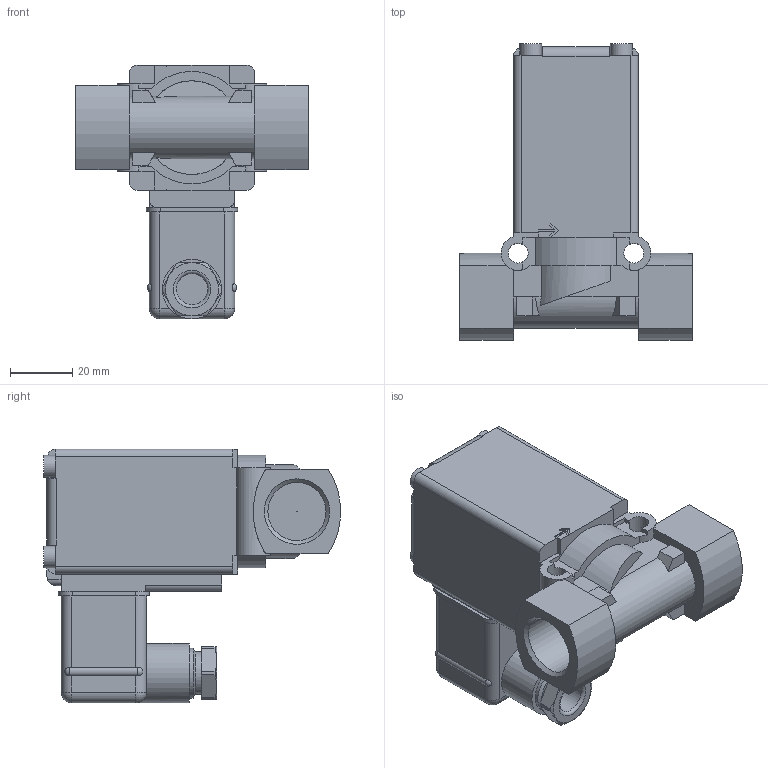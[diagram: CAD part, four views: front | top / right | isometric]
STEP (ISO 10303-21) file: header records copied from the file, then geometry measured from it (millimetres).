
FILE_DESCRIPTION(/* description */ ('STEP AP214'),/* implementation_level */ '2;1');
FILE_NAME(/* name */ '0256-120133-2_2-way_Solenoid_Valve',/* time_stamp */ '2024-07-31T17:57:38+02:00',/* author */ ('License CC BY-ND 4.0'),/* organization */ ('CADENAS'),/* preprocessor_version */ 'ST-DEVELOPER v19.3',/* originating_system */ 'PARTsolutions',/* authorisation */ ' ');
FILE_SCHEMA (('AUTOMOTIVE_DESIGN {1 0 10303 214 3 1 1}'));
Length unit declared in the file: millimetre
Products named in the file (1): 0256-120133-2/2-way Solenoid Valve
Bounding box: 74.5 x 95.02 x 81.2 mm (x, y, z)
Volume: 176025.3 mm3; surface area: 30241.5 mm2
Topology: 1 solids, 1 shells, 242 faces, 637 edges, 403 vertices
Faces by surface type: plane 159, cylinder 64, cone 10, sphere 8, torus 1
Full cylindrical faces by diameter (mm): 0.2 x1, 6.3 x2, 7 x5, 10 x1, 13.7 x1, 16 x1, 18.631 x2, 19 x1
Entity records: 9084 total; most frequent: CARTESIAN_POINT 1395, DIRECTION 1246, ORIENTED_EDGE 1226, EDGE_CURVE 613, AXIS2_PLACEMENT_3D 422, VERTEX_POINT 403, LINE 402, VECTOR 402
